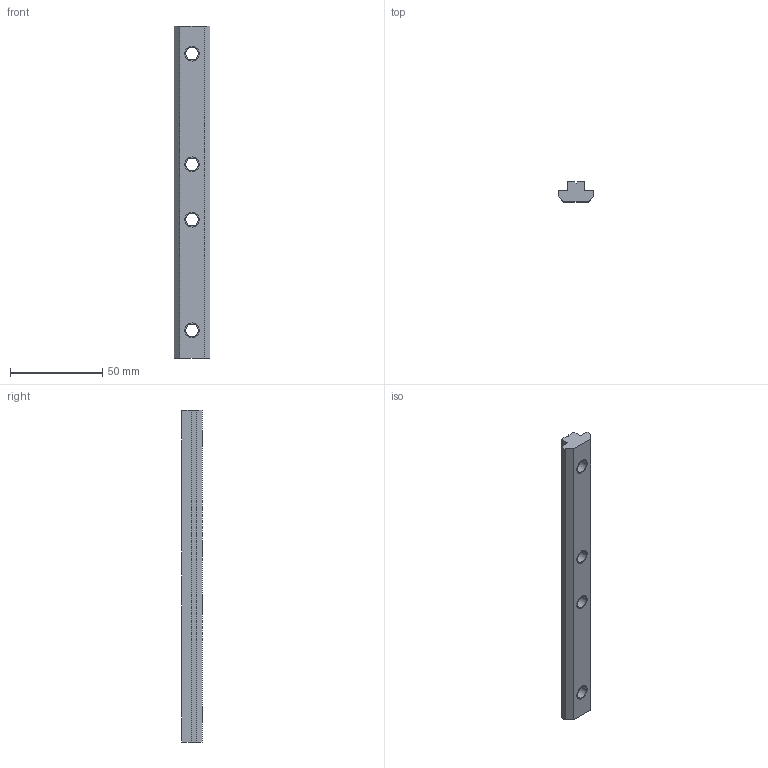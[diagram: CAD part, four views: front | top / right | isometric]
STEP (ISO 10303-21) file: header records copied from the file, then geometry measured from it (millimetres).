
FILE_DESCRIPTION((''),'2;1');
FILE_NAME('GIL6010','2002-12-27T',('Lipro doo'),('Lipro d.o.o.'),'PRO/ENGINEER BY PARAMETRIC TECHNOLOGY CORPORATION, 2001150','PRO/ENGINEER BY PARAMETRIC TECHNOLOGY CORPORATION, 2001150','');
FILE_SCHEMA(('CONFIG_CONTROL_DESIGN'));
Length unit declared in the file: millimetre
Products named in the file (1): GIL6010
Bounding box: 19.5 x 11 x 180 mm (x, y, z)
Volume: 25986.6 mm3; surface area: 12419.6 mm2
Topology: 1 solids, 5 shells, 47 faces, 171 edges, 122 vertices
Faces by surface type: plane 23, cylinder 16, cone 8
Entity records: 1916 total; most frequent: CARTESIAN_POINT 453, ORIENTED_EDGE 302, DIRECTION 275, EDGE_CURVE 171, VERTEX_POINT 122, AXIS2_PLACEMENT_3D 104, VECTOR 67, LINE 67
